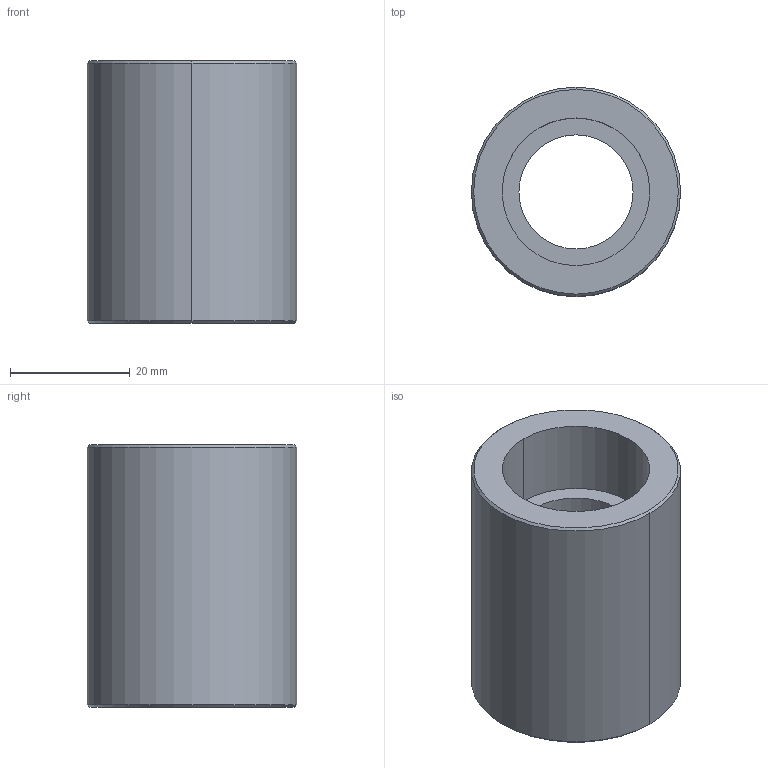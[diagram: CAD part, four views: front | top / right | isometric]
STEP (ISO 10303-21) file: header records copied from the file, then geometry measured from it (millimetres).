
FILE_DESCRIPTION (( 'STEP AP214' ), '1' );
FILE_NAME ('BTQ-19-CS-CF.STEP', '2014-01-15T20:24:59', ( '' ), ( '' ), 'SwSTEP 2.0', 'SolidWorks 2014', '' );
FILE_SCHEMA (( 'AUTOMOTIVE_DESIGN' ));
Length unit declared in the file: inch
Products named in the file (1): BTQ-19-CS-CF
Bounding box: 34.92 x 34.92 x 43.81 mm (x, y, z)
Volume: 24205.7 mm3; surface area: 9062.1 mm2
Topology: 1 solids, 1 shells, 25 faces, 50 edges, 30 vertices
Faces by surface type: cylinder 10, cone 10, plane 5
Entity records: 698 total; most frequent: DIRECTION 132, CARTESIAN_POINT 106, ORIENTED_EDGE 100, AXIS2_PLACEMENT_3D 56, EDGE_CURVE 50, VERTEX_POINT 30, EDGE_LOOP 30, CIRCLE 30
